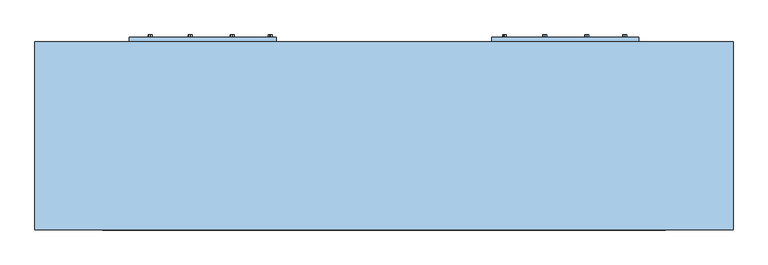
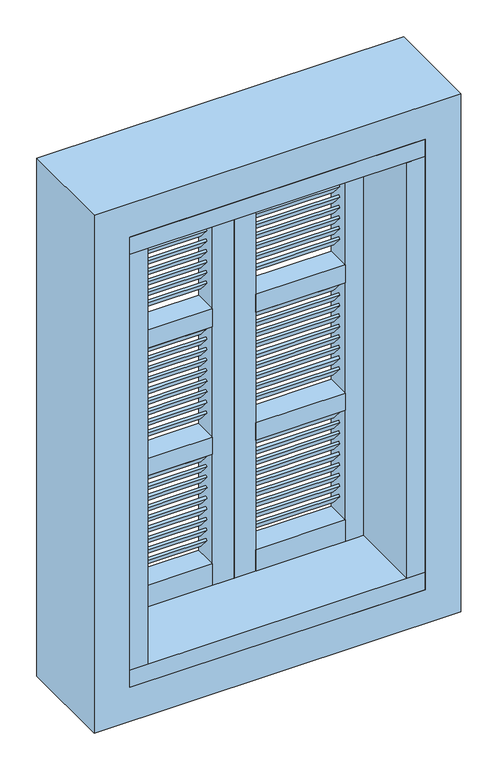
"""IFC4 building model written with IfcOpenShell, lengths in millimetres: window geometry, ziad louvers : ziad louvers."""

from ifc_helpers import new_model, si_unit, frame, origin, place, context, project, spatial, polyline, outline, extrude, source, transform, mapped, element, save


def window_0344a641(model_context):
    return source(origin(), model_context, "Body", "SweptSolid", [
        extrude(outline(polyline([(620.0, -157.5), (-620.1403433, -157.5), (-620.1403433, 257.5), (620.0, 257.5), (620.0, -157.5)])), frame((0.0, 0.0, 950.0), z_axis=(0.0, 0.0, 1.0), x_axis=(1.0, 0.0, 0.0)), (0.0, 0.0, 1.0), 76.5550239),
        extrude(outline(polyline([(620.0, -157.5), (-620.1403433, -157.5), (-620.1403433, 257.5), (620.0, 257.5), (620.0, -157.5)])), frame((0.0, 0.0, 2873.4449761), z_axis=(0.0, 0.0, 1.0), x_axis=(1.0, 0.0, 0.0)), (0.0, 0.0, 1.0), 76.5550239),
        extrude(outline(polyline([(3100.0, -770.0), (800.0, -770.0), (800.0, 770.0), (3100.0, 770.0), (3100.0, -770.0)]), holes=[polyline([(2950.0, -620.1403433), (2950.0, 620.0), (950.0, 620.0), (950.0, -620.1403433), (2950.0, -620.1403433)])]), frame((0.0, -157.5, 0.0), z_axis=(0.0, 1.0, 0.0), x_axis=(0.0, 0.0, 1.0)), (0.0, 0.0, 1.0), 415.0),
        extrude(outline(polyline([(248.6257074, 2299.667998), (241.0786116, 2293.1074077), (196.3743136, 2344.5338198), (203.4626482, 2351.6221544), (248.6257074, 2299.667998)])), frame((-466.8899522, 0.0, 0.0), z_axis=(1.0, 0.0, 0.0), x_axis=(0.0, 1.0, 0.0)), (0.0, 0.0, 1.0), 376.0510329),
        extrude(outline(polyline([(248.6257074, 2299.667998), (241.0786116, 2293.1074077), (196.3743136, 2344.5338198), (203.4626482, 2351.6221544), (248.6257074, 2299.667998)])), frame((90.8389193, 0.0, 0.0), z_axis=(1.0, 0.0, 0.0), x_axis=(0.0, 1.0, 0.0)), (0.0, 0.0, 1.0), 376.0510329),
        extrude(outline(polyline([(466.8899522, 157.5), (90.8389193, 157.5), (90.8389193, 257.5), (466.8899522, 257.5), (466.8899522, 157.5)])), frame((0.0, 0.0, 2761.2958487), z_axis=(0.0, 0.0, 1.0), x_axis=(1.0, 0.0, 0.0)), (0.0, 0.0, 1.0), 112.1491274),
        extrude(outline(polyline([(-90.8389193, 157.5), (-466.8899522, 157.5), (-466.8899522, 257.5), (-90.8389193, 257.5), (-90.8389193, 157.5)])), frame((0.0, 0.0, 2761.2958487), z_axis=(0.0, 0.0, 1.0), x_axis=(1.0, 0.0, 0.0)), (0.0, 0.0, 1.0), 112.1491274),
        extrude(outline(polyline([(466.8899522, 157.5), (90.8389193, 157.5), (90.8389193, 257.5), (466.8899522, 257.5), (466.8899522, 157.5)])), frame((0.0, 0.0, 1026.5550239), z_axis=(0.0, 0.0, 1.0), x_axis=(1.0, 0.0, 0.0)), (0.0, 0.0, 1.0), 95.6937799),
        extrude(outline(polyline([(-90.8389193, 157.5), (-466.8899522, 157.5), (-466.8899522, 257.5), (-90.8389193, 257.5), (-90.8389193, 157.5)])), frame((0.0, 0.0, 1026.5550239), z_axis=(0.0, 0.0, 1.0), x_axis=(1.0, 0.0, 0.0)), (0.0, 0.0, 1.0), 95.6937799),
        extrude(outline(polyline([(466.8899522, 157.5), (90.8389193, 157.5), (90.8389193, 257.5), (466.8899522, 257.5), (466.8899522, 157.5)])), frame((0.0, 0.0, 2175.5697318), z_axis=(0.0, 0.0, 1.0), x_axis=(1.0, 0.0, 0.0)), (0.0, 0.0, 1.0), 79.4069335),
        extrude(outline(polyline([(466.8899522, 157.5), (90.8389193, 157.5), (90.8389193, 257.5), (466.8899522, 257.5), (466.8899522, 157.5)])), frame((0.0, 0.0, 1608.8937001), z_axis=(0.0, 0.0, 1.0), x_axis=(1.0, 0.0, 0.0)), (0.0, 0.0, 1.0), 76.3865228),
        extrude(outline(polyline([(-90.8389193, 157.5), (-466.8899522, 157.5), (-466.8899522, 257.5), (-90.8389193, 257.5), (-90.8389193, 157.5)])), frame((0.0, 0.0, 2175.5697318), z_axis=(0.0, 0.0, 1.0), x_axis=(1.0, 0.0, 0.0)), (0.0, 0.0, 1.0), 79.4069335),
        extrude(outline(polyline([(-90.8389193, 157.5), (-466.8899522, 157.5), (-466.8899522, 257.5), (-90.8389193, 257.5), (-90.8389193, 157.5)])), frame((0.0, 0.0, 1608.8937001), z_axis=(0.0, 0.0, 1.0), x_axis=(1.0, 0.0, 0.0)), (0.0, 0.0, 1.0), 76.3865228),
        extrude(outline(polyline([(543.4449761, 157.5), (466.8899522, 157.5), (466.8899522, 257.5), (543.4449761, 257.5), (543.4449761, 157.5)])), frame((0.0, 0.0, 1026.5550239), z_axis=(0.0, 0.0, 1.0), x_axis=(1.0, 0.0, 0.0)), (0.0, 0.0, 1.0), 1846.8899522),
        extrude(outline(polyline([(-466.8899522, 157.5), (-543.4449761, 157.5), (-543.4449761, 257.5), (-466.8899522, 257.5), (-466.8899522, 157.5)])), frame((0.0, 0.0, 1026.5550239), z_axis=(0.0, 0.0, 1.0), x_axis=(1.0, 0.0, 0.0)), (0.0, 0.0, 1.0), 1846.8899522),
        extrude(outline(polyline([(90.8389193, 157.5), (0.2423284, 157.5), (0.2423284, 257.5), (90.8389193, 257.5), (90.8389193, 157.5)])), frame((0.0, 0.0, 1026.5550239), z_axis=(0.0, 0.0, 1.0), x_axis=(1.0, 0.0, 0.0)), (0.0, 0.0, 1.0), 1846.8899522),
        extrude(outline(polyline([(-0.2423284, 157.5), (-90.8389193, 157.5), (-90.8389193, 257.5), (-0.2423284, 257.5), (-0.2423284, 157.5)])), frame((0.0, 0.0, 1026.5550239), z_axis=(0.0, 0.0, 1.0), x_axis=(1.0, 0.0, 0.0)), (0.0, 0.0, 1.0), 1846.8899522),
        extrude(outline(polyline([(620.0, -157.5), (543.4449761, -157.5), (543.4449761, 257.5), (620.0, 257.5), (620.0, -157.5)])), frame((0.0, 0.0, 1026.5550239), z_axis=(0.0, 0.0, 1.0), x_axis=(1.0, 0.0, 0.0)), (0.0, 0.0, 1.0), 1846.8899522),
        extrude(outline(polyline([(-543.5853194, -157.5), (-620.1403433, -157.5), (-620.1403433, 257.5), (-543.5853194, 257.5), (-543.5853194, -157.5)])), frame((0.0, 0.0, 1026.5550239), z_axis=(0.0, 0.0, 1.0), x_axis=(1.0, 0.0, 0.0)), (0.0, 0.0, 1.0), 1846.8899522),
        extrude(outline(polyline([(1079.5823843, -251.6658102), (1080.7206895, -247.4175973), (1084.9689023, -246.2792922), (1088.07881, -249.3891998), (1086.9405048, -253.6374126), (1082.692292, -254.7757178), (1079.5823843, -251.6658102)])), frame((0.0, 267.5, 0.0), z_axis=(0.0, 1.0, 0.0), x_axis=(0.0, 0.0, 1.0)), (0.0, 0.0, 1.0), 5.0),
        extrude(outline(polyline([(1079.5823843, -335.6321904), (1080.7206895, -331.3839776), (1084.9689023, -330.2456724), (1088.07881, -333.35558), (1086.9405048, -337.6037928), (1082.692292, -338.742098), (1079.5823843, -335.6321904)])), frame((0.0, 267.5, 0.0), z_axis=(0.0, 1.0, 0.0), x_axis=(0.0, 0.0, 1.0)), (0.0, 0.0, 1.0), 5.0),
        extrude(outline(polyline([(1079.5823843, -428.3015434), (1080.7206895, -424.0533306), (1084.9689023, -422.9150254), (1088.07881, -426.024933), (1086.9405048, -430.2731458), (1082.692292, -431.411451), (1079.5823843, -428.3015434)])), frame((0.0, 267.5, 0.0), z_axis=(0.0, 1.0, 0.0), x_axis=(0.0, 0.0, 1.0)), (0.0, 0.0, 1.0), 5.0),
        extrude(outline(polyline([(1079.5823843, -516.9134241), (1080.7206895, -512.6652113), (1084.9689023, -511.5269061), (1088.07881, -514.6368137), (1086.9405048, -518.8850265), (1082.692292, -520.0233317), (1079.5823843, -516.9134241)])), frame((0.0, 267.5, 0.0), z_axis=(0.0, 1.0, 0.0), x_axis=(0.0, 0.0, 1.0)), (0.0, 0.0, 1.0), 5.0),
        extrude(outline(polyline([(-561.9449761, 267.5), (-237.9802006, 267.5), (-237.9802006, 257.5), (-561.9449761, 257.5), (-561.9449761, 267.5)])), frame((0.0, 0.0, 1071.3866187), z_axis=(0.0, 0.0, 1.0), x_axis=(1.0, 0.0, 0.0)), (0.0, 0.0, 1.0), 28.199988),
        extrude(outline(polyline([(1079.5823843, 529.8059787), (1080.7206895, 534.0541915), (1084.9689023, 535.1924967), (1088.07881, 532.082589), (1086.9405048, 527.8343762), (1082.692292, 526.696071), (1079.5823843, 529.8059787)])), frame((0.0, 267.5, 0.0), z_axis=(0.0, 1.0, 0.0), x_axis=(0.0, 0.0, 1.0)), (0.0, 0.0, 1.0), 5.0),
        extrude(outline(polyline([(1079.5823843, 445.8395984), (1080.7206895, 450.0878112), (1084.9689023, 451.2261164), (1088.07881, 448.1162088), (1086.9405048, 443.867996), (1082.692292, 442.7296908), (1079.5823843, 445.8395984)])), frame((0.0, 267.5, 0.0), z_axis=(0.0, 1.0, 0.0), x_axis=(0.0, 0.0, 1.0)), (0.0, 0.0, 1.0), 5.0),
        extrude(outline(polyline([(1079.5823843, 353.1702454), (1080.7206895, 357.4184582), (1084.9689023, 358.5567634), (1088.07881, 355.4468558), (1086.9405048, 351.198643), (1082.692292, 350.0603378), (1079.5823843, 353.1702454)])), frame((0.0, 267.5, 0.0), z_axis=(0.0, 1.0, 0.0), x_axis=(0.0, 0.0, 1.0)), (0.0, 0.0, 1.0), 5.0),
        extrude(outline(polyline([(1079.5823843, 264.5583647), (1080.7206895, 268.8065776), (1084.9689023, 269.9448828), (1088.07881, 266.8349751), (1086.9405048, 262.5867623), (1082.692292, 261.4484571), (1079.5823843, 264.5583647)])), frame((0.0, 267.5, 0.0), z_axis=(0.0, 1.0, 0.0), x_axis=(0.0, 0.0, 1.0)), (0.0, 0.0, 1.0), 5.0),
        extrude(outline(polyline([(238.0268128, 267.5), (561.9915882, 267.5), (561.9915882, 257.5), (238.0268128, 257.5), (238.0268128, 267.5)])), frame((0.0, 0.0, 1071.3866187), z_axis=(0.0, 0.0, 1.0), x_axis=(1.0, 0.0, 0.0)), (0.0, 0.0, 1.0), 28.199988),
        extrude(outline(polyline([(1642.6138034, -251.6658102), (1643.7521086, -247.4175973), (1648.0003214, -246.2792922), (1651.110229, -249.3891998), (1649.9719239, -253.6374126), (1645.723711, -254.7757178), (1642.6138034, -251.6658102)])), frame((0.0, 267.5, 0.0), z_axis=(0.0, 1.0, 0.0), x_axis=(0.0, 0.0, 1.0)), (0.0, 0.0, 1.0), 5.0),
        extrude(outline(polyline([(1642.6138034, -335.6321904), (1643.7521086, -331.3839776), (1648.0003214, -330.2456724), (1651.110229, -333.35558), (1649.9719239, -337.6037928), (1645.723711, -338.742098), (1642.6138034, -335.6321904)])), frame((0.0, 267.5, 0.0), z_axis=(0.0, 1.0, 0.0), x_axis=(0.0, 0.0, 1.0)), (0.0, 0.0, 1.0), 5.0),
        extrude(outline(polyline([(1642.6138034, -428.3015434), (1643.7521086, -424.0533306), (1648.0003214, -422.9150254), (1651.110229, -426.024933), (1649.9719239, -430.2731458), (1645.723711, -431.411451), (1642.6138034, -428.3015434)])), frame((0.0, 267.5, 0.0), z_axis=(0.0, 1.0, 0.0), x_axis=(0.0, 0.0, 1.0)), (0.0, 0.0, 1.0), 5.0),
        extrude(outline(polyline([(1642.6138034, -516.9134241), (1643.7521086, -512.6652113), (1648.0003214, -511.5269061), (1651.110229, -514.6368137), (1649.9719239, -518.8850265), (1645.723711, -520.0233317), (1642.6138034, -516.9134241)])), frame((0.0, 267.5, 0.0), z_axis=(0.0, 1.0, 0.0), x_axis=(0.0, 0.0, 1.0)), (0.0, 0.0, 1.0), 5.0),
        extrude(outline(polyline([(-561.9449761, 267.5), (-237.9802006, 267.5), (-237.9802006, 257.5), (-561.9449761, 257.5), (-561.9449761, 267.5)])), frame((0.0, 0.0, 1634.4180377), z_axis=(0.0, 0.0, 1.0), x_axis=(1.0, 0.0, 0.0)), (0.0, 0.0, 1.0), 28.199988),
        extrude(outline(polyline([(1642.6138034, 529.8059787), (1643.7521086, 534.0541915), (1648.0003214, 535.1924967), (1651.110229, 532.082589), (1649.9719239, 527.8343762), (1645.723711, 526.696071), (1642.6138034, 529.8059787)])), frame((0.0, 267.5, 0.0), z_axis=(0.0, 1.0, 0.0), x_axis=(0.0, 0.0, 1.0)), (0.0, 0.0, 1.0), 5.0),
        extrude(outline(polyline([(1642.6138034, 445.8395984), (1643.7521086, 450.0878112), (1648.0003214, 451.2261164), (1651.110229, 448.1162088), (1649.9719239, 443.867996), (1645.723711, 442.7296908), (1642.6138034, 445.8395984)])), frame((0.0, 267.5, 0.0), z_axis=(0.0, 1.0, 0.0), x_axis=(0.0, 0.0, 1.0)), (0.0, 0.0, 1.0), 5.0),
        extrude(outline(polyline([(1642.6138034, 353.1702454), (1643.7521086, 357.4184582), (1648.0003214, 358.5567634), (1651.110229, 355.4468558), (1649.9719239, 351.198643), (1645.723711, 350.0603378), (1642.6138034, 353.1702454)])), frame((0.0, 267.5, 0.0), z_axis=(0.0, 1.0, 0.0), x_axis=(0.0, 0.0, 1.0)), (0.0, 0.0, 1.0), 5.0),
        extrude(outline(polyline([(1642.6138034, 264.5583647), (1643.7521086, 268.8065776), (1648.0003214, 269.9448828), (1651.110229, 266.8349751), (1649.9719239, 262.5867623), (1645.723711, 261.4484571), (1642.6138034, 264.5583647)])), frame((0.0, 267.5, 0.0), z_axis=(0.0, 1.0, 0.0), x_axis=(0.0, 0.0, 1.0)), (0.0, 0.0, 1.0), 5.0),
        extrude(outline(polyline([(238.0268128, 267.5), (561.9915882, 267.5), (561.9915882, 257.5), (238.0268128, 257.5), (238.0268128, 267.5)])), frame((0.0, 0.0, 1634.4180377), z_axis=(0.0, 0.0, 1.0), x_axis=(1.0, 0.0, 0.0)), (0.0, 0.0, 1.0), 28.199988),
        extrude(outline(polyline([(2209.2898351, -251.6658102), (2210.4281403, -247.4175973), (2214.6763531, -246.2792922), (2217.7862608, -249.3891998), (2216.6479556, -253.6374126), (2212.3997427, -254.7757178), (2209.2898351, -251.6658102)])), frame((0.0, 267.5, 0.0), z_axis=(0.0, 1.0, 0.0), x_axis=(0.0, 0.0, 1.0)), (0.0, 0.0, 1.0), 5.0),
        extrude(outline(polyline([(2209.2898351, -335.6321904), (2210.4281403, -331.3839776), (2214.6763531, -330.2456724), (2217.7862608, -333.35558), (2216.6479556, -337.6037928), (2212.3997427, -338.742098), (2209.2898351, -335.6321904)])), frame((0.0, 267.5, 0.0), z_axis=(0.0, 1.0, 0.0), x_axis=(0.0, 0.0, 1.0)), (0.0, 0.0, 1.0), 5.0),
        extrude(outline(polyline([(2209.2898351, -428.3015434), (2210.4281403, -424.0533306), (2214.6763531, -422.9150254), (2217.7862608, -426.024933), (2216.6479556, -430.2731458), (2212.3997427, -431.411451), (2209.2898351, -428.3015434)])), frame((0.0, 267.5, 0.0), z_axis=(0.0, 1.0, 0.0), x_axis=(0.0, 0.0, 1.0)), (0.0, 0.0, 1.0), 5.0),
        extrude(outline(polyline([(2209.2898351, -516.9134241), (2210.4281403, -512.6652113), (2214.6763531, -511.5269061), (2217.7862608, -514.6368137), (2216.6479556, -518.8850265), (2212.3997427, -520.0233317), (2209.2898351, -516.9134241)])), frame((0.0, 267.5, 0.0), z_axis=(0.0, 1.0, 0.0), x_axis=(0.0, 0.0, 1.0)), (0.0, 0.0, 1.0), 5.0),
        extrude(outline(polyline([(-561.9449761, 267.5), (-237.9802006, 267.5), (-237.9802006, 257.5), (-561.9449761, 257.5), (-561.9449761, 267.5)])), frame((0.0, 0.0, 2201.0940694), z_axis=(0.0, 0.0, 1.0), x_axis=(1.0, 0.0, 0.0)), (0.0, 0.0, 1.0), 28.199988),
        extrude(outline(polyline([(2209.2898351, 529.8059787), (2210.4281403, 534.0541915), (2214.6763531, 535.1924967), (2217.7862608, 532.082589), (2216.6479556, 527.8343762), (2212.3997427, 526.696071), (2209.2898351, 529.8059787)])), frame((0.0, 267.5, 0.0), z_axis=(0.0, 1.0, 0.0), x_axis=(0.0, 0.0, 1.0)), (0.0, 0.0, 1.0), 5.0),
        extrude(outline(polyline([(2209.2898351, 445.8395984), (2210.4281403, 450.0878112), (2214.6763531, 451.2261164), (2217.7862608, 448.1162088), (2216.6479556, 443.867996), (2212.3997427, 442.7296908), (2209.2898351, 445.8395984)])), frame((0.0, 267.5, 0.0), z_axis=(0.0, 1.0, 0.0), x_axis=(0.0, 0.0, 1.0)), (0.0, 0.0, 1.0), 5.0),
        extrude(outline(polyline([(2209.2898351, 353.1702454), (2210.4281403, 357.4184582), (2214.6763531, 358.5567634), (2217.7862608, 355.4468558), (2216.6479556, 351.198643), (2212.3997427, 350.0603378), (2209.2898351, 353.1702454)])), frame((0.0, 267.5, 0.0), z_axis=(0.0, 1.0, 0.0), x_axis=(0.0, 0.0, 1.0)), (0.0, 0.0, 1.0), 5.0),
        extrude(outline(polyline([(2209.2898351, 264.5583647), (2210.4281403, 268.8065776), (2214.6763531, 269.9448828), (2217.7862608, 266.8349751), (2216.6479556, 262.5867623), (2212.3997427, 261.4484571), (2209.2898351, 264.5583647)])), frame((0.0, 267.5, 0.0), z_axis=(0.0, 1.0, 0.0), x_axis=(0.0, 0.0, 1.0)), (0.0, 0.0, 1.0), 5.0),
        extrude(outline(polyline([(238.0268128, 267.5), (561.9915882, 267.5), (561.9915882, 257.5), (238.0268128, 257.5), (238.0268128, 267.5)])), frame((0.0, 0.0, 2201.0940694), z_axis=(0.0, 0.0, 1.0), x_axis=(1.0, 0.0, 0.0)), (0.0, 0.0, 1.0), 28.199988),
        extrude(outline(polyline([(2795.015952, -251.6658102), (2796.1542572, -247.4175973), (2800.40247, -246.2792922), (2803.5123776, -249.3891998), (2802.3740724, -253.6374126), (2798.1258596, -254.7757178), (2795.015952, -251.6658102)])), frame((0.0, 267.5, 0.0), z_axis=(0.0, 1.0, 0.0), x_axis=(0.0, 0.0, 1.0)), (0.0, 0.0, 1.0), 5.0),
        extrude(outline(polyline([(2795.015952, -335.6321904), (2796.1542572, -331.3839776), (2800.40247, -330.2456724), (2803.5123776, -333.35558), (2802.3740724, -337.6037928), (2798.1258596, -338.742098), (2795.015952, -335.6321904)])), frame((0.0, 267.5, 0.0), z_axis=(0.0, 1.0, 0.0), x_axis=(0.0, 0.0, 1.0)), (0.0, 0.0, 1.0), 5.0),
        extrude(outline(polyline([(2795.015952, -428.3015434), (2796.1542572, -424.0533306), (2800.40247, -422.9150254), (2803.5123776, -426.024933), (2802.3740724, -430.2731458), (2798.1258596, -431.411451), (2795.015952, -428.3015434)])), frame((0.0, 267.5, 0.0), z_axis=(0.0, 1.0, 0.0), x_axis=(0.0, 0.0, 1.0)), (0.0, 0.0, 1.0), 5.0),
        extrude(outline(polyline([(2795.015952, -516.9134241), (2796.1542572, -512.6652113), (2800.40247, -511.5269061), (2803.5123776, -514.6368137), (2802.3740724, -518.8850265), (2798.1258596, -520.0233317), (2795.015952, -516.9134241)])), frame((0.0, 267.5, 0.0), z_axis=(0.0, 1.0, 0.0), x_axis=(0.0, 0.0, 1.0)), (0.0, 0.0, 1.0), 5.0),
        extrude(outline(polyline([(-561.9449761, 267.5), (-237.9802006, 267.5), (-237.9802006, 257.5), (-561.9449761, 257.5), (-561.9449761, 267.5)])), frame((0.0, 0.0, 2786.8201863), z_axis=(0.0, 0.0, 1.0), x_axis=(1.0, 0.0, 0.0)), (0.0, 0.0, 1.0), 28.199988),
        extrude(outline(polyline([(248.6257074, 1156.9897884), (241.0786116, 1150.4291981), (196.3743136, 1201.8556102), (203.4626482, 1208.9439448), (248.6257074, 1156.9897884)])), frame((-466.8899522, 0.0, 0.0), z_axis=(1.0, 0.0, 0.0), x_axis=(0.0, 1.0, 0.0)), (0.0, 0.0, 1.0), 376.0510329),
        extrude(outline(polyline([(248.6257074, 1203.8256561), (241.0786116, 1197.2650658), (196.3743136, 1248.6914779), (203.4626482, 1255.7798125), (248.6257074, 1203.8256561)])), frame((-466.8899522, 0.0, 0.0), z_axis=(1.0, 0.0, 0.0), x_axis=(0.0, 1.0, 0.0)), (0.0, 0.0, 1.0), 376.0510329),
        extrude(outline(polyline([(248.6257074, 1250.6615238), (241.0786116, 1244.1009335), (196.3743136, 1295.5273456), (203.4626482, 1302.6156802), (248.6257074, 1250.6615238)])), frame((-466.8899522, 0.0, 0.0), z_axis=(1.0, 0.0, 0.0), x_axis=(0.0, 1.0, 0.0)), (0.0, 0.0, 1.0), 376.0510329),
        extrude(outline(polyline([(248.6257074, 1297.4973915), (241.0786116, 1290.9368012), (196.3743136, 1342.3632132), (203.4626482, 1349.4515479), (248.6257074, 1297.4973915)])), frame((-466.8899522, 0.0, 0.0), z_axis=(1.0, 0.0, 0.0), x_axis=(0.0, 1.0, 0.0)), (0.0, 0.0, 1.0), 376.0510329),
        extrude(outline(polyline([(248.6257074, 1344.3332592), (241.0786116, 1337.7726689), (196.3743136, 1389.1990809), (203.4626482, 1396.2874156), (248.6257074, 1344.3332592)])), frame((-466.8899522, 0.0, 0.0), z_axis=(1.0, 0.0, 0.0), x_axis=(0.0, 1.0, 0.0)), (0.0, 0.0, 1.0), 376.0510329),
        extrude(outline(polyline([(248.6257074, 1391.1691268), (241.0786116, 1384.6085366), (196.3743136, 1436.0349486), (203.4626482, 1443.1232833), (248.6257074, 1391.1691268)])), frame((-466.8899522, 0.0, 0.0), z_axis=(1.0, 0.0, 0.0), x_axis=(0.0, 1.0, 0.0)), (0.0, 0.0, 1.0), 376.0510329),
        extrude(outline(polyline([(248.6257074, 1438.0049945), (241.0786116, 1431.4444043), (196.3743136, 1482.8708163), (203.4626482, 1489.959151), (248.6257074, 1438.0049945)])), frame((-466.8899522, 0.0, 0.0), z_axis=(1.0, 0.0, 0.0), x_axis=(0.0, 1.0, 0.0)), (0.0, 0.0, 1.0), 376.0510329),
        extrude(outline(polyline([(248.6257074, 1484.8408622), (241.0786116, 1478.280272), (196.3743136, 1529.706684), (203.4626482, 1536.7950187), (248.6257074, 1484.8408622)])), frame((-466.8899522, 0.0, 0.0), z_axis=(1.0, 0.0, 0.0), x_axis=(0.0, 1.0, 0.0)), (0.0, 0.0, 1.0), 376.0510329),
        extrude(outline(polyline([(248.6257074, 1531.6767299), (241.0786116, 1525.1161397), (196.3743136, 1576.5425517), (203.4626482, 1583.6308864), (248.6257074, 1531.6767299)])), frame((-466.8899522, 0.0, 0.0), z_axis=(1.0, 0.0, 0.0), x_axis=(0.0, 1.0, 0.0)), (0.0, 0.0, 1.0), 376.0510329),
        extrude(outline(polyline([(248.6257074, 1723.6658201), (241.0786116, 1717.1052298), (196.3743136, 1768.5316419), (203.4626482, 1775.6199765), (248.6257074, 1723.6658201)])), frame((-466.8899522, 0.0, 0.0), z_axis=(1.0, 0.0, 0.0), x_axis=(0.0, 1.0, 0.0)), (0.0, 0.0, 1.0), 376.0510329),
        extrude(outline(polyline([(248.6257074, 1770.5016878), (241.0786116, 1763.9410975), (196.3743136, 1815.3675096), (203.4626482, 1822.4558442), (248.6257074, 1770.5016878)])), frame((-466.8899522, 0.0, 0.0), z_axis=(1.0, 0.0, 0.0), x_axis=(0.0, 1.0, 0.0)), (0.0, 0.0, 1.0), 376.0510329),
        extrude(outline(polyline([(248.6257074, 1817.3375555), (241.0786116, 1810.7769652), (196.3743136, 1862.2033773), (203.4626482, 1869.2917119), (248.6257074, 1817.3375555)])), frame((-466.8899522, 0.0, 0.0), z_axis=(1.0, 0.0, 0.0), x_axis=(0.0, 1.0, 0.0)), (0.0, 0.0, 1.0), 376.0510329),
        extrude(outline(polyline([(248.6257074, 1864.1734232), (241.0786116, 1857.6128329), (196.3743136, 1909.039245), (203.4626482, 1916.1275796), (248.6257074, 1864.1734232)])), frame((-466.8899522, 0.0, 0.0), z_axis=(1.0, 0.0, 0.0), x_axis=(0.0, 1.0, 0.0)), (0.0, 0.0, 1.0), 376.0510329),
        extrude(outline(polyline([(248.6257074, 1911.0092909), (241.0786116, 1904.4487006), (196.3743136, 1955.8751127), (203.4626482, 1962.9634473), (248.6257074, 1911.0092909)])), frame((-466.8899522, 0.0, 0.0), z_axis=(1.0, 0.0, 0.0), x_axis=(0.0, 1.0, 0.0)), (0.0, 0.0, 1.0), 376.0510329),
        extrude(outline(polyline([(248.6257074, 1957.8451586), (241.0786116, 1951.2845683), (196.3743136, 2002.7109804), (203.4626482, 2009.799315), (248.6257074, 1957.8451586)])), frame((-466.8899522, 0.0, 0.0), z_axis=(1.0, 0.0, 0.0), x_axis=(0.0, 1.0, 0.0)), (0.0, 0.0, 1.0), 376.0510329),
        extrude(outline(polyline([(248.6257074, 2004.6810263), (241.0786116, 1998.120436), (196.3743136, 2049.5468481), (203.4626482, 2056.6351827), (248.6257074, 2004.6810263)])), frame((-466.8899522, 0.0, 0.0), z_axis=(1.0, 0.0, 0.0), x_axis=(0.0, 1.0, 0.0)), (0.0, 0.0, 1.0), 376.0510329),
        extrude(outline(polyline([(248.6257074, 2051.516894), (241.0786116, 2044.9563037), (196.3743136, 2096.3827158), (203.4626482, 2103.4710504), (248.6257074, 2051.516894)])), frame((-466.8899522, 0.0, 0.0), z_axis=(1.0, 0.0, 0.0), x_axis=(0.0, 1.0, 0.0)), (0.0, 0.0, 1.0), 376.0510329),
        extrude(outline(polyline([(248.6257074, 2098.3527617), (241.0786116, 2091.7921714), (196.3743136, 2143.2185834), (203.4626482, 2150.3069181), (248.6257074, 2098.3527617)])), frame((-466.8899522, 0.0, 0.0), z_axis=(1.0, 0.0, 0.0), x_axis=(0.0, 1.0, 0.0)), (0.0, 0.0, 1.0), 376.0510329),
        extrude(outline(polyline([(248.6257074, 2346.5038657), (241.0786116, 2339.9432754), (196.3743136, 2391.3696875), (203.4626482, 2398.4580221), (248.6257074, 2346.5038657)])), frame((-466.8899522, 0.0, 0.0), z_axis=(1.0, 0.0, 0.0), x_axis=(0.0, 1.0, 0.0)), (0.0, 0.0, 1.0), 376.0510329),
        extrude(outline(polyline([(248.6257074, 2393.3397334), (241.0786116, 2386.7791431), (196.3743136, 2438.2055552), (203.4626482, 2445.2938898), (248.6257074, 2393.3397334)])), frame((-466.8899522, 0.0, 0.0), z_axis=(1.0, 0.0, 0.0), x_axis=(0.0, 1.0, 0.0)), (0.0, 0.0, 1.0), 376.0510329),
        extrude(outline(polyline([(248.6257074, 2440.1756011), (241.0786116, 2433.6150108), (196.3743136, 2485.0414229), (203.4626482, 2492.1297575), (248.6257074, 2440.1756011)])), frame((-466.8899522, 0.0, 0.0), z_axis=(1.0, 0.0, 0.0), x_axis=(0.0, 1.0, 0.0)), (0.0, 0.0, 1.0), 376.0510329),
        extrude(outline(polyline([(248.6257074, 2487.0114688), (241.0786116, 2480.4508785), (196.3743136, 2531.8772906), (203.4626482, 2538.9656252), (248.6257074, 2487.0114688)])), frame((-466.8899522, 0.0, 0.0), z_axis=(1.0, 0.0, 0.0), x_axis=(0.0, 1.0, 0.0)), (0.0, 0.0, 1.0), 376.0510329),
        extrude(outline(polyline([(248.6257074, 2533.8473365), (241.0786116, 2527.2867462), (196.3743136, 2578.7131583), (203.4626482, 2585.8014929), (248.6257074, 2533.8473365)])), frame((-466.8899522, 0.0, 0.0), z_axis=(1.0, 0.0, 0.0), x_axis=(0.0, 1.0, 0.0)), (0.0, 0.0, 1.0), 376.0510329),
        extrude(outline(polyline([(248.6257074, 2580.6832042), (241.0786116, 2574.1226139), (196.3743136, 2625.549026), (203.4626482, 2632.6373606), (248.6257074, 2580.6832042)])), frame((-466.8899522, 0.0, 0.0), z_axis=(1.0, 0.0, 0.0), x_axis=(0.0, 1.0, 0.0)), (0.0, 0.0, 1.0), 376.0510329),
        extrude(outline(polyline([(248.6257074, 2627.5190719), (241.0786116, 2620.9584816), (196.3743136, 2672.3848937), (203.4626482, 2679.4732283), (248.6257074, 2627.5190719)])), frame((-466.8899522, 0.0, 0.0), z_axis=(1.0, 0.0, 0.0), x_axis=(0.0, 1.0, 0.0)), (0.0, 0.0, 1.0), 376.0510329),
        extrude(outline(polyline([(248.6257074, 2674.3549396), (241.0786116, 2667.7943493), (196.3743136, 2719.2207614), (203.4626482, 2726.309096), (248.6257074, 2674.3549396)])), frame((-466.8899522, 0.0, 0.0), z_axis=(1.0, 0.0, 0.0), x_axis=(0.0, 1.0, 0.0)), (0.0, 0.0, 1.0), 376.0510329),
        extrude(outline(polyline([(248.6257074, 1156.9897884), (241.0786116, 1150.4291981), (196.3743136, 1201.8556102), (203.4626482, 1208.9439448), (248.6257074, 1156.9897884)])), frame((90.8389193, 0.0, 0.0), z_axis=(1.0, 0.0, 0.0), x_axis=(0.0, 1.0, 0.0)), (0.0, 0.0, 1.0), 376.0510329),
        extrude(outline(polyline([(248.6257074, 1203.8256561), (241.0786116, 1197.2650658), (196.3743136, 1248.6914779), (203.4626482, 1255.7798125), (248.6257074, 1203.8256561)])), frame((90.8389193, 0.0, 0.0), z_axis=(1.0, 0.0, 0.0), x_axis=(0.0, 1.0, 0.0)), (0.0, 0.0, 1.0), 376.0510329),
        extrude(outline(polyline([(248.6257074, 1250.6615238), (241.0786116, 1244.1009335), (196.3743136, 1295.5273456), (203.4626482, 1302.6156802), (248.6257074, 1250.6615238)])), frame((90.8389193, 0.0, 0.0), z_axis=(1.0, 0.0, 0.0), x_axis=(0.0, 1.0, 0.0)), (0.0, 0.0, 1.0), 376.0510329),
        extrude(outline(polyline([(248.6257074, 1297.4973915), (241.0786116, 1290.9368012), (196.3743136, 1342.3632133), (203.4626482, 1349.4515479), (248.6257074, 1297.4973915)])), frame((90.8389193, 0.0, 0.0), z_axis=(1.0, 0.0, 0.0), x_axis=(0.0, 1.0, 0.0)), (0.0, 0.0, 1.0), 376.0510329),
        extrude(outline(polyline([(248.6257074, 1344.3332592), (241.0786116, 1337.7726689), (196.3743136, 1389.199081), (203.4626482, 1396.2874156), (248.6257074, 1344.3332592)])), frame((90.8389193, 0.0, 0.0), z_axis=(1.0, 0.0, 0.0), x_axis=(0.0, 1.0, 0.0)), (0.0, 0.0, 1.0), 376.0510329),
        extrude(outline(polyline([(248.6257074, 1391.1691269), (241.0786116, 1384.6085366), (196.3743136, 1436.0349486), (203.4626482, 1443.1232833), (248.6257074, 1391.1691269)])), frame((90.8389193, 0.0, 0.0), z_axis=(1.0, 0.0, 0.0), x_axis=(0.0, 1.0, 0.0)), (0.0, 0.0, 1.0), 376.0510329),
        extrude(outline(polyline([(248.6257074, 1438.0049945), (241.0786116, 1431.4444043), (196.3743136, 1482.8708163), (203.4626482, 1489.959151), (248.6257074, 1438.0049945)])), frame((90.8389193, 0.0, 0.0), z_axis=(1.0, 0.0, 0.0), x_axis=(0.0, 1.0, 0.0)), (0.0, 0.0, 1.0), 376.0510329),
        extrude(outline(polyline([(248.6257074, 1484.8408622), (241.0786116, 1478.280272), (196.3743136, 1529.706684), (203.4626482, 1536.7950187), (248.6257074, 1484.8408622)])), frame((90.8389193, 0.0, 0.0), z_axis=(1.0, 0.0, 0.0), x_axis=(0.0, 1.0, 0.0)), (0.0, 0.0, 1.0), 376.0510329),
        extrude(outline(polyline([(248.6257074, 1531.6767299), (241.0786116, 1525.1161397), (196.3743136, 1576.5425517), (203.4626482, 1583.6308864), (248.6257074, 1531.6767299)])), frame((90.8389193, 0.0, 0.0), z_axis=(1.0, 0.0, 0.0), x_axis=(0.0, 1.0, 0.0)), (0.0, 0.0, 1.0), 376.0510329),
        extrude(outline(polyline([(248.6257074, 1723.6658201), (241.0786116, 1717.1052298), (196.3743136, 1768.5316419), (203.4626482, 1775.6199765), (248.6257074, 1723.6658201)])), frame((90.8389193, 0.0, 0.0), z_axis=(1.0, 0.0, 0.0), x_axis=(0.0, 1.0, 0.0)), (0.0, 0.0, 1.0), 376.0510329),
        extrude(outline(polyline([(248.6257074, 1770.5016878), (241.0786116, 1763.9410975), (196.3743136, 1815.3675096), (203.4626482, 1822.4558442), (248.6257074, 1770.5016878)])), frame((90.8389193, 0.0, 0.0), z_axis=(1.0, 0.0, 0.0), x_axis=(0.0, 1.0, 0.0)), (0.0, 0.0, 1.0), 376.0510329),
        extrude(outline(polyline([(248.6257074, 1817.3375555), (241.0786116, 1810.7769652), (196.3743136, 1862.2033773), (203.4626482, 1869.2917119), (248.6257074, 1817.3375555)])), frame((90.8389193, 0.0, 0.0), z_axis=(1.0, 0.0, 0.0), x_axis=(0.0, 1.0, 0.0)), (0.0, 0.0, 1.0), 376.0510329),
        extrude(outline(polyline([(248.6257074, 1864.1734232), (241.0786116, 1857.6128329), (196.3743136, 1909.039245), (203.4626482, 1916.1275796), (248.6257074, 1864.1734232)])), frame((90.8389193, 0.0, 0.0), z_axis=(1.0, 0.0, 0.0), x_axis=(0.0, 1.0, 0.0)), (0.0, 0.0, 1.0), 376.0510329),
        extrude(outline(polyline([(248.6257074, 1911.0092909), (241.0786116, 1904.4487006), (196.3743136, 1955.8751127), (203.4626482, 1962.9634473), (248.6257074, 1911.0092909)])), frame((90.8389193, 0.0, 0.0), z_axis=(1.0, 0.0, 0.0), x_axis=(0.0, 1.0, 0.0)), (0.0, 0.0, 1.0), 376.0510329),
        extrude(outline(polyline([(248.6257074, 1957.8451586), (241.0786116, 1951.2845683), (196.3743136, 2002.7109804), (203.4626482, 2009.799315), (248.6257074, 1957.8451586)])), frame((90.8389193, 0.0, 0.0), z_axis=(1.0, 0.0, 0.0), x_axis=(0.0, 1.0, 0.0)), (0.0, 0.0, 1.0), 376.0510329),
        extrude(outline(polyline([(248.6257074, 2004.6810263), (241.0786116, 1998.120436), (196.3743136, 2049.5468481), (203.4626482, 2056.6351827), (248.6257074, 2004.6810263)])), frame((90.8389193, 0.0, 0.0), z_axis=(1.0, 0.0, 0.0), x_axis=(0.0, 1.0, 0.0)), (0.0, 0.0, 1.0), 376.0510329),
        extrude(outline(polyline([(248.6257074, 2051.516894), (241.0786116, 2044.9563037), (196.3743136, 2096.3827158), (203.4626482, 2103.4710504), (248.6257074, 2051.516894)])), frame((90.8389193, 0.0, 0.0), z_axis=(1.0, 0.0, 0.0), x_axis=(0.0, 1.0, 0.0)), (0.0, 0.0, 1.0), 376.0510329),
        extrude(outline(polyline([(248.6257074, 2098.3527617), (241.0786116, 2091.7921714), (196.3743136, 2143.2185835), (203.4626482, 2150.3069181), (248.6257074, 2098.3527617)])), frame((90.8389193, 0.0, 0.0), z_axis=(1.0, 0.0, 0.0), x_axis=(0.0, 1.0, 0.0)), (0.0, 0.0, 1.0), 376.0510329),
        extrude(outline(polyline([(248.6257074, 2346.5038657), (241.0786116, 2339.9432754), (196.3743136, 2391.3696875), (203.4626482, 2398.4580221), (248.6257074, 2346.5038657)])), frame((90.8389193, 0.0, 0.0), z_axis=(1.0, 0.0, 0.0), x_axis=(0.0, 1.0, 0.0)), (0.0, 0.0, 1.0), 376.0510329),
        extrude(outline(polyline([(248.6257074, 2393.3397334), (241.0786116, 2386.7791431), (196.3743136, 2438.2055552), (203.4626482, 2445.2938898), (248.6257074, 2393.3397334)])), frame((90.8389193, 0.0, 0.0), z_axis=(1.0, 0.0, 0.0), x_axis=(0.0, 1.0, 0.0)), (0.0, 0.0, 1.0), 376.0510329),
        extrude(outline(polyline([(248.6257074, 2440.1756011), (241.0786116, 2433.6150108), (196.3743136, 2485.0414229), (203.4626482, 2492.1297575), (248.6257074, 2440.1756011)])), frame((90.8389193, 0.0, 0.0), z_axis=(1.0, 0.0, 0.0), x_axis=(0.0, 1.0, 0.0)), (0.0, 0.0, 1.0), 376.0510329),
        extrude(outline(polyline([(248.6257074, 2487.0114688), (241.0786116, 2480.4508785), (196.3743136, 2531.8772906), (203.4626482, 2538.9656252), (248.6257074, 2487.0114688)])), frame((90.8389193, 0.0, 0.0), z_axis=(1.0, 0.0, 0.0), x_axis=(0.0, 1.0, 0.0)), (0.0, 0.0, 1.0), 376.0510329),
        extrude(outline(polyline([(248.6257074, 2533.8473365), (241.0786116, 2527.2867462), (196.3743136, 2578.7131583), (203.4626482, 2585.8014929), (248.6257074, 2533.8473365)])), frame((90.8389193, 0.0, 0.0), z_axis=(1.0, 0.0, 0.0), x_axis=(0.0, 1.0, 0.0)), (0.0, 0.0, 1.0), 376.0510329),
        extrude(outline(polyline([(248.6257074, 2580.6832042), (241.0786116, 2574.1226139), (196.3743136, 2625.549026), (203.4626482, 2632.6373606), (248.6257074, 2580.6832042)])), frame((90.8389193, 0.0, 0.0), z_axis=(1.0, 0.0, 0.0), x_axis=(0.0, 1.0, 0.0)), (0.0, 0.0, 1.0), 376.0510329),
        extrude(outline(polyline([(248.6257074, 2627.5190719), (241.0786116, 2620.9584816), (196.3743136, 2672.3848937), (203.4626482, 2679.4732283), (248.6257074, 2627.5190719)])), frame((90.8389193, 0.0, 0.0), z_axis=(1.0, 0.0, 0.0), x_axis=(0.0, 1.0, 0.0)), (0.0, 0.0, 1.0), 376.0510329),
        extrude(outline(polyline([(248.6257074, 2674.3549396), (241.0786116, 2667.7943493), (196.3743136, 2719.2207614), (203.4626482, 2726.309096), (248.6257074, 2674.3549396)])), frame((90.8389193, 0.0, 0.0), z_axis=(1.0, 0.0, 0.0), x_axis=(0.0, 1.0, 0.0)), (0.0, 0.0, 1.0), 376.0510329),
        extrude(outline(polyline([(2795.015952, 529.8059787), (2796.1542572, 534.0541915), (2800.40247, 535.1924967), (2803.5123776, 532.082589), (2802.3740724, 527.8343762), (2798.1258596, 526.696071), (2795.015952, 529.8059787)])), frame((0.0, 267.5, 0.0), z_axis=(0.0, 1.0, 0.0), x_axis=(0.0, 0.0, 1.0)), (0.0, 0.0, 1.0), 5.0),
        extrude(outline(polyline([(2795.015952, 445.8395984), (2796.1542572, 450.0878112), (2800.40247, 451.2261164), (2803.5123776, 448.1162088), (2802.3740724, 443.867996), (2798.1258596, 442.7296908), (2795.015952, 445.8395984)])), frame((0.0, 267.5, 0.0), z_axis=(0.0, 1.0, 0.0), x_axis=(0.0, 0.0, 1.0)), (0.0, 0.0, 1.0), 5.0),
        extrude(outline(polyline([(2795.015952, 353.1702454), (2796.1542572, 357.4184582), (2800.40247, 358.5567634), (2803.5123776, 355.4468558), (2802.3740724, 351.198643), (2798.1258596, 350.0603378), (2795.015952, 353.1702454)])), frame((0.0, 267.5, 0.0), z_axis=(0.0, 1.0, 0.0), x_axis=(0.0, 0.0, 1.0)), (0.0, 0.0, 1.0), 5.0),
        extrude(outline(polyline([(2795.015952, 264.5583647), (2796.1542572, 268.8065776), (2800.40247, 269.9448828), (2803.5123776, 266.8349751), (2802.3740724, 262.5867623), (2798.1258596, 261.4484571), (2795.015952, 264.5583647)])), frame((0.0, 267.5, 0.0), z_axis=(0.0, 1.0, 0.0), x_axis=(0.0, 0.0, 1.0)), (0.0, 0.0, 1.0), 5.0),
        extrude(outline(polyline([(238.0268128, 267.5), (561.9915882, 267.5), (561.9915882, 257.5), (238.0268128, 257.5), (238.0268128, 267.5)])), frame((0.0, 0.0, 2786.8201863), z_axis=(0.0, 0.0, 1.0), x_axis=(1.0, 0.0, 0.0)), (0.0, 0.0, 1.0), 28.199988),
    ])


if __name__ == "__main__":
    model = new_model("IFC4")
    model_context = context("Model", 3, world=origin())
    ifc_project = project(units=[si_unit("LENGTHUNIT", "METRE", prefix="MILLI")], contexts=[model_context])
    site = spatial("IfcSite", under=ifc_project)
    building = spatial("IfcBuilding", under=site)
    placement = place(None, origin())
    window_shape = window_0344a641(model_context)
    element("IfcWindow", 1, ObjectType="ziad louvers : ziad louvers", at=placement, inside=building, context=model_context, shape_type="MappedRepresentation", body=[
        mapped(window_shape, transform((0.0, 0.0, 0.0), x_axis=(1.0, 0.0, 0.0), y_axis=(0.0, 1.0, 0.0), z_axis=(0.0, 0.0, 1.0))),
    ])
    save(model, "model.ifc")
